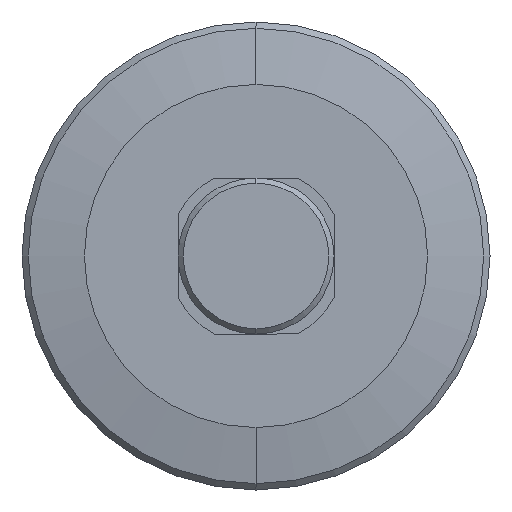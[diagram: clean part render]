
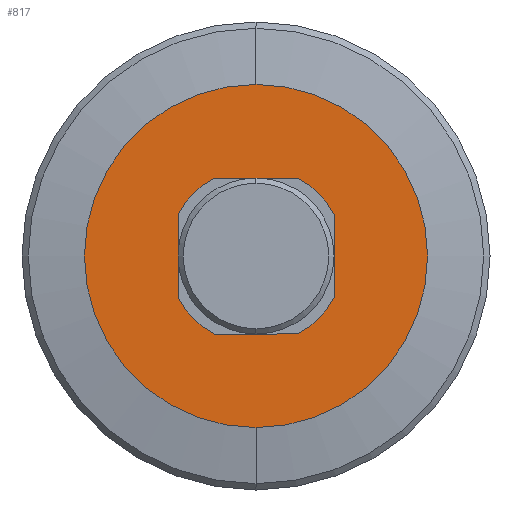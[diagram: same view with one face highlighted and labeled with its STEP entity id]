
A CAD part, left-side view. The second image highlights one B-rep face of the part: STEP entity #817.
In plain terms, the highlighted planar face has unit normal (-1, 0, 0).
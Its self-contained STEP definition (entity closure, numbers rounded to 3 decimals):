
#8 = CARTESIAN_POINT ( 'NONE',  ( 66., -8., -15. ) ) ;
#19 = CARTESIAN_POINT ( 'NONE',  ( 66., 15., -8. ) ) ;
#40 = VECTOR ( 'NONE', #77, 1000. ) ;
#74 = ORIENTED_EDGE ( 'NONE', *, *, #854, .T. ) ;
#77 = DIRECTION ( 'NONE',  ( 0., 1., 0. ) ) ;
#92 = DIRECTION ( 'NONE',  ( -1., 0., 0. ) ) ;
#94 = DIRECTION ( 'NONE',  ( 1., 0., 0. ) ) ;
#101 = EDGE_CURVE ( 'NONE', #1333, #1332, #893, .T. ) ;
#105 = CARTESIAN_POINT ( 'NONE',  ( 66., 0., 0. ) ) ;
#116 = CARTESIAN_POINT ( 'NONE',  ( 66., 0., 0. ) ) ;
#147 = CARTESIAN_POINT ( 'NONE',  ( 66., -15., -8. ) ) ;
#187 = AXIS2_PLACEMENT_3D ( 'NONE', #302, #94, #849 ) ;
#197 = EDGE_LOOP ( 'NONE', ( #859, #1188, #465, #576, #985, #773, #885, #1240 ) ) ;
#206 = DIRECTION ( 'NONE',  ( 0., 0., 1. ) ) ;
#214 = VECTOR ( 'NONE', #1149, 1000. ) ;
#225 = DIRECTION ( 'NONE',  ( 0., 0., 1. ) ) ;
#239 = CARTESIAN_POINT ( 'NONE',  ( 66., 0., 33. ) ) ;
#297 = ORIENTED_EDGE ( 'NONE', *, *, #870, .T. ) ;
#302 = CARTESIAN_POINT ( 'NONE',  ( 66., 33., 0. ) ) ;
#315 = LINE ( 'NONE', #1031, #40 ) ;
#335 = DIRECTION ( 'NONE',  ( 0., -1., 0. ) ) ;
#339 = CARTESIAN_POINT ( 'NONE',  ( 66., -8., 15. ) ) ;
#403 = AXIS2_PLACEMENT_3D ( 'NONE', #533, #1263, #650 ) ;
#428 = CIRCLE ( 'NONE', #1343, 33. ) ;
#440 = CARTESIAN_POINT ( 'NONE',  ( 66., -15., 8. ) ) ;
#448 = CARTESIAN_POINT ( 'NONE',  ( 66., 33., -15. ) ) ;
#465 = ORIENTED_EDGE ( 'NONE', *, *, #962, .F. ) ;
#512 = DIRECTION ( 'NONE',  ( 0., 0., 1. ) ) ;
#533 = CARTESIAN_POINT ( 'NONE',  ( 66., 0., 0. ) ) ;
#536 = VERTEX_POINT ( 'NONE', #147 ) ;
#576 = ORIENTED_EDGE ( 'NONE', *, *, #781, .F. ) ;
#583 = CARTESIAN_POINT ( 'NONE',  ( 66., -15., 0. ) ) ;
#584 = AXIS2_PLACEMENT_3D ( 'NONE', #865, #751, #512 ) ;
#614 = DIRECTION ( 'NONE',  ( -1., 0., 0. ) ) ;
#650 = DIRECTION ( 'NONE',  ( 0., 0., 1. ) ) ;
#658 = VERTEX_POINT ( 'NONE', #718 ) ;
#669 = VECTOR ( 'NONE', #799, 1000. ) ;
#680 = EDGE_CURVE ( 'NONE', #1037, #1333, #315, .T. ) ;
#688 = EDGE_LOOP ( 'NONE', ( #74, #297 ) ) ;
#718 = CARTESIAN_POINT ( 'NONE',  ( 66., 8., -15. ) ) ;
#734 = CARTESIAN_POINT ( 'NONE',  ( 66., 15., 0. ) ) ;
#737 = CARTESIAN_POINT ( 'NONE',  ( 66., 0., 0. ) ) ;
#751 = DIRECTION ( 'NONE',  ( -1., 0., 0. ) ) ;
#759 = FACE_OUTER_BOUND ( 'NONE', #688, .T. ) ;
#773 = ORIENTED_EDGE ( 'NONE', *, *, #680, .F. ) ;
#781 = EDGE_CURVE ( 'NONE', #1332, #967, #1068, .T. ) ;
#786 = EDGE_CURVE ( 'NONE', #889, #536, #826, .T. ) ;
#799 = DIRECTION ( 'NONE',  ( 0., 0., 1. ) ) ;
#808 = VERTEX_POINT ( 'NONE', #1053 ) ;
#817 = ADVANCED_FACE ( 'NONE', ( #759, #1002 ), #1354, .F. ) ;
#822 = VECTOR ( 'NONE', #335, 1000. ) ;
#826 = CIRCLE ( 'NONE', #1208, 17. ) ;
#837 = CIRCLE ( 'NONE', #1270, 17. ) ;
#845 = DIRECTION ( 'NONE',  ( 0., 0., 1. ) ) ;
#849 = DIRECTION ( 'NONE',  ( 0., 0., -1. ) ) ;
#854 = EDGE_CURVE ( 'NONE', #808, #1044, #428, .T. ) ;
#855 = DIRECTION ( 'NONE',  ( -1., 0., 0. ) ) ;
#859 = ORIENTED_EDGE ( 'NONE', *, *, #786, .F. ) ;
#865 = CARTESIAN_POINT ( 'NONE',  ( 66., 0., 0. ) ) ;
#870 = EDGE_CURVE ( 'NONE', #1044, #808, #1203, .T. ) ;
#872 = CIRCLE ( 'NONE', #912, 17. ) ;
#873 = DIRECTION ( 'NONE',  ( -1., 0., 0. ) ) ;
#885 = ORIENTED_EDGE ( 'NONE', *, *, #1344, .F. ) ;
#889 = VERTEX_POINT ( 'NONE', #8 ) ;
#893 = CIRCLE ( 'NONE', #584, 17. ) ;
#912 = AXIS2_PLACEMENT_3D ( 'NONE', #116, #873, #225 ) ;
#924 = CARTESIAN_POINT ( 'NONE',  ( 66., 8., 15. ) ) ;
#962 = EDGE_CURVE ( 'NONE', #967, #658, #872, .T. ) ;
#967 = VERTEX_POINT ( 'NONE', #19 ) ;
#985 = ORIENTED_EDGE ( 'NONE', *, *, #101, .F. ) ;
#1002 = FACE_BOUND ( 'NONE', #197, .T. ) ;
#1024 = VERTEX_POINT ( 'NONE', #440 ) ;
#1026 = CARTESIAN_POINT ( 'NONE',  ( 66., 15., 8. ) ) ;
#1031 = CARTESIAN_POINT ( 'NONE',  ( 66., 33., 15. ) ) ;
#1037 = VERTEX_POINT ( 'NONE', #339 ) ;
#1044 = VERTEX_POINT ( 'NONE', #239 ) ;
#1053 = CARTESIAN_POINT ( 'NONE',  ( 66., 0., -33. ) ) ;
#1068 = LINE ( 'NONE', #734, #214 ) ;
#1093 = LINE ( 'NONE', #448, #822 ) ;
#1096 = EDGE_CURVE ( 'NONE', #536, #1024, #1221, .T. ) ;
#1149 = DIRECTION ( 'NONE',  ( 0., 0., -1. ) ) ;
#1179 = EDGE_CURVE ( 'NONE', #658, #889, #1093, .T. ) ;
#1188 = ORIENTED_EDGE ( 'NONE', *, *, #1179, .F. ) ;
#1203 = CIRCLE ( 'NONE', #403, 33. ) ;
#1208 = AXIS2_PLACEMENT_3D ( 'NONE', #737, #92, #845 ) ;
#1221 = LINE ( 'NONE', #583, #669 ) ;
#1230 = CARTESIAN_POINT ( 'NONE',  ( 66., 0., 0. ) ) ;
#1240 = ORIENTED_EDGE ( 'NONE', *, *, #1096, .F. ) ;
#1263 = DIRECTION ( 'NONE',  ( -1., 0., 0. ) ) ;
#1270 = AXIS2_PLACEMENT_3D ( 'NONE', #1230, #614, #1328 ) ;
#1328 = DIRECTION ( 'NONE',  ( 0., 0., 1. ) ) ;
#1332 = VERTEX_POINT ( 'NONE', #1026 ) ;
#1333 = VERTEX_POINT ( 'NONE', #924 ) ;
#1343 = AXIS2_PLACEMENT_3D ( 'NONE', #105, #855, #206 ) ;
#1344 = EDGE_CURVE ( 'NONE', #1024, #1037, #837, .T. ) ;
#1354 = PLANE ( 'NONE',  #187 ) ;
